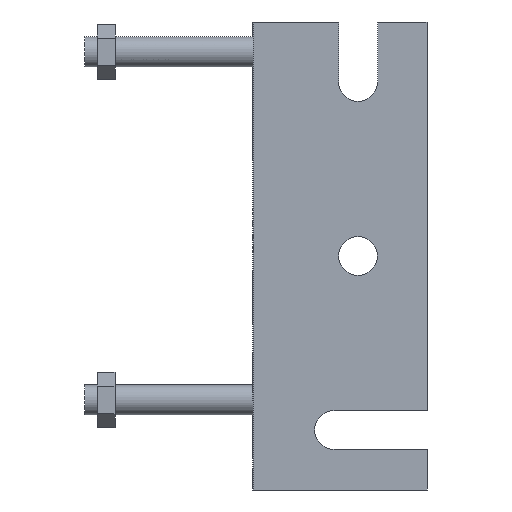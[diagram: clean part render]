
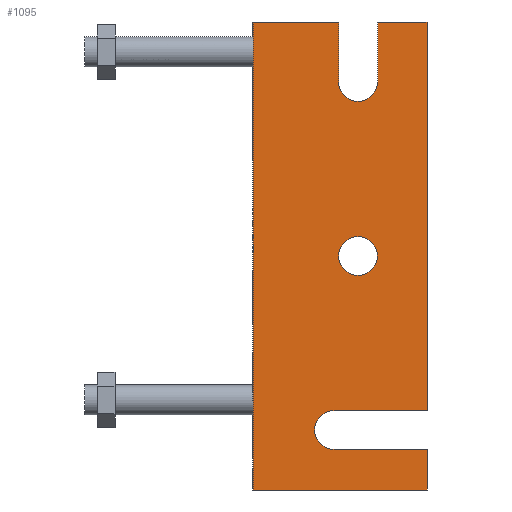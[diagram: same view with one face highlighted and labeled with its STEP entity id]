
A CAD part, front view. The second image highlights one B-rep face of the part: STEP entity #1095.
In plain terms, the highlighted planar face has unit normal (0, -1, 0).
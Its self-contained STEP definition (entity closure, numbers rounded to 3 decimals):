
#192 = VERTEX_POINT ( 'NONE', #1498 ) ;
#194 = EDGE_CURVE ( 'NONE', #198, #192, #1497, .T. ) ;
#198 = VERTEX_POINT ( 'NONE', #1487 ) ;
#636 = VERTEX_POINT ( 'NONE', #2196 ) ;
#638 = EDGE_CURVE ( 'NONE', #639, #636, #2195, .T. ) ;
#639 = VERTEX_POINT ( 'NONE', #2190 ) ;
#874 = VERTEX_POINT ( 'NONE', #2628 ) ;
#876 = EDGE_CURVE ( 'NONE', #940, #874, #2627, .T. ) ;
#940 = VERTEX_POINT ( 'NONE', #2768 ) ;
#1077 = EDGE_CURVE ( 'NONE', #1091, #1090, #2979, .T. ) ;
#1078 = ORIENTED_EDGE ( 'NONE', *, *, #1079, .T. ) ;
#1079 = EDGE_CURVE ( 'NONE', #1091, #639, #2975, .T. ) ;
#1080 = ORIENTED_EDGE ( 'NONE', *, *, #638, .T. ) ;
#1081 = ORIENTED_EDGE ( 'NONE', *, *, #1137, .T. ) ;
#1082 = ORIENTED_EDGE ( 'NONE', *, *, #1083, .T. ) ;
#1083 = EDGE_CURVE ( 'NONE', #1103, #1084, #2971, .T. ) ;
#1084 = VERTEX_POINT ( 'NONE', #3032 ) ;
#1085 = ORIENTED_EDGE ( 'NONE', *, *, #1086, .T. ) ;
#1086 = EDGE_CURVE ( 'NONE', #1084, #1087, #3031, .T. ) ;
#1087 = VERTEX_POINT ( 'NONE', #3027 ) ;
#1088 = ORIENTED_EDGE ( 'NONE', *, *, #1089, .F. ) ;
#1089 = EDGE_CURVE ( 'NONE', #1090, #1087, #3026, .T. ) ;
#1090 = VERTEX_POINT ( 'NONE', #3022 ) ;
#1091 = VERTEX_POINT ( 'NONE', #3021 ) ;
#1095 = ADVANCED_FACE ( 'NONE', ( #3015, #3014 ), #3013, .F. ) ;
#1096 = ORIENTED_EDGE ( 'NONE', *, *, #194, .T. ) ;
#1097 = ORIENTED_EDGE ( 'NONE', *, *, #1098, .T. ) ;
#1098 = EDGE_CURVE ( 'NONE', #192, #198, #3007, .T. ) ;
#1099 = EDGE_LOOP ( 'NONE', ( #1100, #1082, #1085, #1088, #1164, #1078, #1080, #1081, #1151, #1191, #1131, #1132, #1135 ) ) ;
#1100 = ORIENTED_EDGE ( 'NONE', *, *, #1101, .T. ) ;
#1101 = EDGE_CURVE ( 'NONE', #1102, #1103, #3002, .T. ) ;
#1102 = VERTEX_POINT ( 'NONE', #3065 ) ;
#1103 = VERTEX_POINT ( 'NONE', #3064 ) ;
#1106 = EDGE_LOOP ( 'NONE', ( #1096, #1097 ) ) ;
#1131 = ORIENTED_EDGE ( 'NONE', *, *, #876, .T. ) ;
#1132 = ORIENTED_EDGE ( 'NONE', *, *, #1171, .T. ) ;
#1133 = VERTEX_POINT ( 'NONE', #3076 ) ;
#1134 = EDGE_CURVE ( 'NONE', #1176, #1133, #3075, .T. ) ;
#1135 = ORIENTED_EDGE ( 'NONE', *, *, #1149, .F. ) ;
#1136 = EDGE_CURVE ( 'NONE', #940, #1133, #3071, .T. ) ;
#1137 = EDGE_CURVE ( 'NONE', #636, #1176, #3130, .T. ) ;
#1140 = VERTEX_POINT ( 'NONE', #3124 ) ;
#1149 = EDGE_CURVE ( 'NONE', #1102, #1140, #3117, .T. ) ;
#1151 = ORIENTED_EDGE ( 'NONE', *, *, #1134, .T. ) ;
#1164 = ORIENTED_EDGE ( 'NONE', *, *, #1077, .F. ) ;
#1171 = EDGE_CURVE ( 'NONE', #874, #1140, #3139, .T. ) ;
#1176 = VERTEX_POINT ( 'NONE', #3193 ) ;
#1191 = ORIENTED_EDGE ( 'NONE', *, *, #1136, .F. ) ;
#1487 = CARTESIAN_POINT ( 'NONE',  ( 17.5, 0., -3.25 ) ) ;
#1493 = DIRECTION ( 'NONE',  ( 0., 0., 1. ) ) ;
#1494 = DIRECTION ( 'NONE',  ( 0., 1., 0. ) ) ;
#1495 = CARTESIAN_POINT ( 'NONE',  ( 17.5, 0., 0. ) ) ;
#1496 = AXIS2_PLACEMENT_3D ( 'NONE', #1495, #1494, #1493 ) ;
#1497 = CIRCLE ( 'NONE', #1496, 3.25 ) ;
#1498 = CARTESIAN_POINT ( 'NONE',  ( 17.5, 0., 3.25 ) ) ;
#2190 = CARTESIAN_POINT ( 'NONE',  ( 20.75, 0., 29. ) ) ;
#2191 = DIRECTION ( 'NONE',  ( 0., 0., -1. ) ) ;
#2192 = DIRECTION ( 'NONE',  ( 0., 1., 0. ) ) ;
#2193 = CARTESIAN_POINT ( 'NONE',  ( 17.5, 0., 29. ) ) ;
#2194 = AXIS2_PLACEMENT_3D ( 'NONE', #2193, #2192, #2191 ) ;
#2195 = CIRCLE ( 'NONE', #2194, 3.25 ) ;
#2196 = CARTESIAN_POINT ( 'NONE',  ( 17.5, 0., 25.75 ) ) ;
#2624 = DIRECTION ( 'NONE',  ( 0., 0., -1. ) ) ;
#2625 = VECTOR ( 'NONE', #2624, 1000. ) ;
#2626 = CARTESIAN_POINT ( 'NONE',  ( 0., 0., 39. ) ) ;
#2627 = LINE ( 'NONE', #2626, #2625 ) ;
#2628 = CARTESIAN_POINT ( 'NONE',  ( 0., 0., -39. ) ) ;
#2768 = CARTESIAN_POINT ( 'NONE',  ( 0., 0., 39. ) ) ;
#2971 = CIRCLE ( 'NONE', #3036, 3.25 ) ;
#2972 = DIRECTION ( 'NONE',  ( 0., 0., -1. ) ) ;
#2973 = VECTOR ( 'NONE', #2972, 1000. ) ;
#2974 = CARTESIAN_POINT ( 'NONE',  ( 20.75, 0., 39. ) ) ;
#2975 = LINE ( 'NONE', #2974, #2973 ) ;
#2976 = DIRECTION ( 'NONE',  ( 1., 0., 0. ) ) ;
#2977 = VECTOR ( 'NONE', #2976, 1000. ) ;
#2978 = CARTESIAN_POINT ( 'NONE',  ( 0., 0., 39. ) ) ;
#2979 = LINE ( 'NONE', #2978, #2977 ) ;
#3001 = CARTESIAN_POINT ( 'NONE',  ( 29., 0., -32.25 ) ) ;
#3002 = LINE ( 'NONE', #3001, #3067 ) ;
#3003 = DIRECTION ( 'NONE',  ( 0., 0., 1. ) ) ;
#3004 = DIRECTION ( 'NONE',  ( 0., 1., 0. ) ) ;
#3005 = CARTESIAN_POINT ( 'NONE',  ( 17.5, 0., 0. ) ) ;
#3006 = AXIS2_PLACEMENT_3D ( 'NONE', #3005, #3004, #3003 ) ;
#3007 = CIRCLE ( 'NONE', #3006, 3.25 ) ;
#3009 = DIRECTION ( 'NONE',  ( 0., 0., 1. ) ) ;
#3010 = DIRECTION ( 'NONE',  ( 0., 1., 0. ) ) ;
#3011 = CARTESIAN_POINT ( 'NONE',  ( 0., 0., 39. ) ) ;
#3012 = AXIS2_PLACEMENT_3D ( 'NONE', #3011, #3010, #3009 ) ;
#3013 = PLANE ( 'NONE',  #3012 ) ;
#3014 = FACE_OUTER_BOUND ( 'NONE', #1099, .T. ) ;
#3015 = FACE_BOUND ( 'NONE', #1106, .T. ) ;
#3021 = CARTESIAN_POINT ( 'NONE',  ( 20.75, 0., 39. ) ) ;
#3022 = CARTESIAN_POINT ( 'NONE',  ( 29., 0., 39. ) ) ;
#3023 = DIRECTION ( 'NONE',  ( 0., 0., -1. ) ) ;
#3024 = VECTOR ( 'NONE', #3023, 1000. ) ;
#3025 = CARTESIAN_POINT ( 'NONE',  ( 29., 0., 39. ) ) ;
#3026 = LINE ( 'NONE', #3025, #3024 ) ;
#3027 = CARTESIAN_POINT ( 'NONE',  ( 29., 0., -25.75 ) ) ;
#3028 = DIRECTION ( 'NONE',  ( 1., 0., 0. ) ) ;
#3029 = VECTOR ( 'NONE', #3028, 1000. ) ;
#3030 = CARTESIAN_POINT ( 'NONE',  ( 29., 0., -25.75 ) ) ;
#3031 = LINE ( 'NONE', #3030, #3029 ) ;
#3032 = CARTESIAN_POINT ( 'NONE',  ( 13.5, 0., -25.75 ) ) ;
#3033 = DIRECTION ( 'NONE',  ( 0., 0., 1. ) ) ;
#3034 = DIRECTION ( 'NONE',  ( 0., 1., 0. ) ) ;
#3035 = CARTESIAN_POINT ( 'NONE',  ( 13.5, 0., -29. ) ) ;
#3036 = AXIS2_PLACEMENT_3D ( 'NONE', #3035, #3034, #3033 ) ;
#3064 = CARTESIAN_POINT ( 'NONE',  ( 13.5, 0., -32.25 ) ) ;
#3065 = CARTESIAN_POINT ( 'NONE',  ( 29., 0., -32.25 ) ) ;
#3066 = DIRECTION ( 'NONE',  ( -1., 0., 0. ) ) ;
#3067 = VECTOR ( 'NONE', #3066, 1000. ) ;
#3068 = DIRECTION ( 'NONE',  ( 1., 0., 0. ) ) ;
#3069 = VECTOR ( 'NONE', #3068, 1000. ) ;
#3070 = CARTESIAN_POINT ( 'NONE',  ( 0., 0., 39. ) ) ;
#3071 = LINE ( 'NONE', #3070, #3069 ) ;
#3072 = DIRECTION ( 'NONE',  ( 0., 0., 1. ) ) ;
#3073 = VECTOR ( 'NONE', #3072, 1000. ) ;
#3074 = CARTESIAN_POINT ( 'NONE',  ( 14.25, 0., 39. ) ) ;
#3075 = LINE ( 'NONE', #3074, #3073 ) ;
#3076 = CARTESIAN_POINT ( 'NONE',  ( 14.25, 0., 39. ) ) ;
#3114 = DIRECTION ( 'NONE',  ( 0., 0., -1. ) ) ;
#3115 = VECTOR ( 'NONE', #3114, 1000. ) ;
#3116 = CARTESIAN_POINT ( 'NONE',  ( 29., 0., 39. ) ) ;
#3117 = LINE ( 'NONE', #3116, #3115 ) ;
#3124 = CARTESIAN_POINT ( 'NONE',  ( 29., 0., -39. ) ) ;
#3126 = DIRECTION ( 'NONE',  ( 0., 0., -1. ) ) ;
#3127 = DIRECTION ( 'NONE',  ( 0., 1., 0. ) ) ;
#3128 = CARTESIAN_POINT ( 'NONE',  ( 17.5, 0., 29. ) ) ;
#3129 = AXIS2_PLACEMENT_3D ( 'NONE', #3128, #3127, #3126 ) ;
#3130 = CIRCLE ( 'NONE', #3129, 3.25 ) ;
#3136 = DIRECTION ( 'NONE',  ( 1., 0., 0. ) ) ;
#3137 = VECTOR ( 'NONE', #3136, 1000. ) ;
#3138 = CARTESIAN_POINT ( 'NONE',  ( 0., 0., -39. ) ) ;
#3139 = LINE ( 'NONE', #3138, #3137 ) ;
#3193 = CARTESIAN_POINT ( 'NONE',  ( 14.25, 0., 29. ) ) ;
